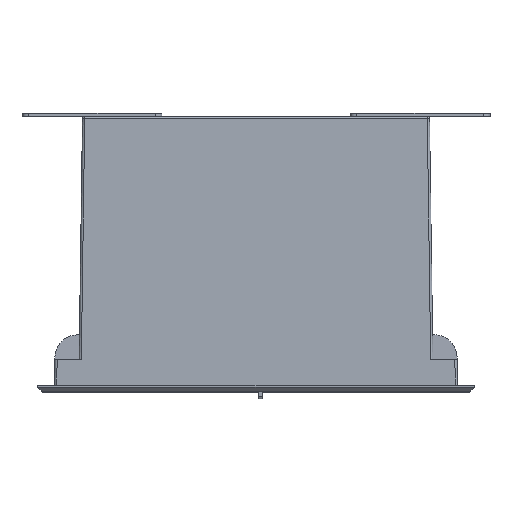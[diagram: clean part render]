
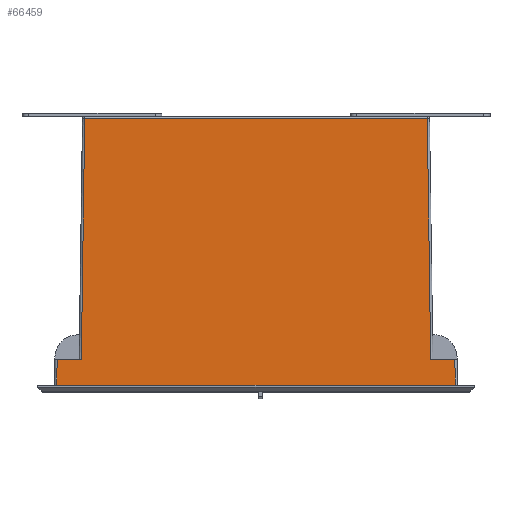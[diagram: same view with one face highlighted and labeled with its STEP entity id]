
A CAD part, top view. The second image highlights one B-rep face of the part: STEP entity #66459.
In plain terms, the highlighted planar face has unit normal (0, 0.014, 1) as drawn and (0, -0.014, 1) by its records, which use the part's own axes.
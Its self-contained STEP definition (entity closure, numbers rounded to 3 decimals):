
#57682=CARTESIAN_POINT('',(-88.799,0.,28.839));
#57688=DIRECTION('',(1.,0.,0.));
#57689=VECTOR('',#57688,10.799);
#57690=CARTESIAN_POINT('',(-88.799,0.,28.839));
#57691=LINE('',#57690,#57689);
#57752=CARTESIAN_POINT('',(88.799,0.,28.839));
#57766=DIRECTION('',(1.,0.,0.));
#57767=VECTOR('',#57766,10.799);
#57768=CARTESIAN_POINT('',(78.,0.,
28.839));
#57769=LINE('',#57768,#57767);
#59698=CARTESIAN_POINT('',(-89.,11.5,29.));
#59730=DIRECTION('',(1.,0.,0.));
#59731=VECTOR('',#59730,178.);
#59732=CARTESIAN_POINT('',(-89.,11.5,29.));
#59733=LINE('',#59732,#59731);
#60673=DIRECTION('',(0.017,-1.,-0.014));
#60674=VECTOR('',#60673,11.503);
#60675=CARTESIAN_POINT('',(-89.,11.5,29.));
#60676=LINE('',#60675,#60674);
#60677=DIRECTION('',(0.017,1.,0.014));
#60678=VECTOR('',#60677,11.503);
#60679=CARTESIAN_POINT('',(88.799,0.,28.839));
#60680=LINE('',#60679,#60678);
#60681=DIRECTION('',(0.014,1.,0.014));
#60682=VECTOR('',#60681,107.535);
#60683=CARTESIAN_POINT('',(76.499,-107.514,
27.338));
#60684=LINE('',#60683,#60682);
#60685=DIRECTION('',(-1.,0.,0.));
#60686=VECTOR('',#60685,152.998);
#60687=CARTESIAN_POINT('',(76.499,-107.514,
27.338));
#60688=LINE('',#60687,#60686);
#60689=DIRECTION('',(-0.014,1.,0.014));
#60690=VECTOR('',#60689,107.535);
#60691=CARTESIAN_POINT('',(-76.499,-107.514,
27.338));
#60692=LINE('',#60691,#60690);
#62608=CARTESIAN_POINT('',(-76.499,-107.514,
27.338));
#62609=CARTESIAN_POINT('',(-78.,0.,
28.839));
#62610=VERTEX_POINT('',#62608);
#62611=VERTEX_POINT('',#62609);
#62614=CARTESIAN_POINT('',(76.499,-107.514,
27.338));
#62615=VERTEX_POINT('',#62614);
#62618=CARTESIAN_POINT('',(78.,0.,
28.839));
#62619=VERTEX_POINT('',#62618);
#62620=VERTEX_POINT('',#57682);
#62624=VERTEX_POINT('',#59698);
#62630=CARTESIAN_POINT('',(89.,11.5,29.));
#62631=VERTEX_POINT('',#62630);
#62641=VERTEX_POINT('',#57752);
#66441=CARTESIAN_POINT('',(-93.688,11.5,29.));
#66442=DIRECTION('',(0.,-0.014,1.));
#66443=DIRECTION('',(1.,0.,0.));
#66444=AXIS2_PLACEMENT_3D('',#66441,#66442,#66443);
#66445=PLANE('',#66444);
#66446=ORIENTED_EDGE('',*,*,#62908,.F.);
#66447=ORIENTED_EDGE('',*,*,#64941,.T.);
#66449=ORIENTED_EDGE('',*,*,#66448,.F.);
#66450=ORIENTED_EDGE('',*,*,#62893,.F.);
#66452=ORIENTED_EDGE('',*,*,#66451,.F.);
#66453=ORIENTED_EDGE('',*,*,#66432,.T.);
#66455=ORIENTED_EDGE('',*,*,#66454,.T.);
#66456=ORIENTED_EDGE('',*,*,#62825,.F.);
#66457=EDGE_LOOP('',(#66446,#66447,#66449,#66450,#66452,#66453,#66455,#66456));
#66458=FACE_OUTER_BOUND('',#66457,.F.);
#66459=ADVANCED_FACE('',(#66458),#66445,.T.);
#62825=EDGE_CURVE('',#62620,#62611,#57691,.T.);
#62893=EDGE_CURVE('',#62619,#62641,#57769,.T.);
#62908=EDGE_CURVE('',#62624,#62620,#60676,.T.);
#64941=EDGE_CURVE('',#62624,#62631,#59733,.T.);
#66432=EDGE_CURVE('',#62615,#62610,#60688,.T.);
#66448=EDGE_CURVE('',#62641,#62631,#60680,.T.);
#66451=EDGE_CURVE('',#62615,#62619,#60684,.T.);
#66454=EDGE_CURVE('',#62610,#62611,#60692,.T.);
